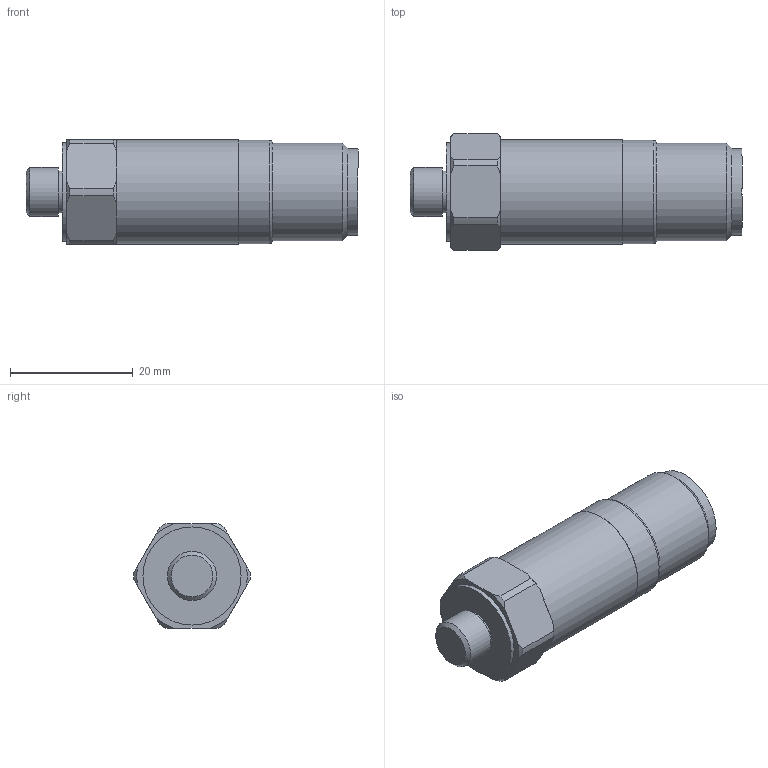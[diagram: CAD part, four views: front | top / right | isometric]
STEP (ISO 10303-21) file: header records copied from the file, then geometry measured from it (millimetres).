
FILE_DESCRIPTION(/* description */ (''),/* implementation_level */ '2;1');
FILE_NAME(/* name */ 'Z:\Engineering\Drawings\3D Library\Assemblies\Website\Premium Top\Compact\HS-170 Top 2 Pin MS\HS-1700105008.stp',/* time_stamp */ '2023-03-16T16:36:37+00:00',/* author */ ('Ricardo.Peneda'),/* organization */ (''),/* preprocessor_version */ 'ST-DEVELOPER v18.1',/* originating_system */ 'Autodesk Inventor 2021',/* authorisation */ '');
FILE_SCHEMA (('AUTOMOTIVE_DESIGN { 1 0 10303 214 3 1 1 }'));
Length unit declared in the file: inch
Products named in the file (1): HS-1700105008_Shrinkwrap_1
Bounding box: 54.15 x 19 x 17 mm (x, y, z)
Volume: 5862.1 mm3; surface area: 5555 mm2
Topology: 3 solids, 3 shells, 68 faces, 174 edges, 122 vertices
Faces by surface type: plane 28, cylinder 22, cone 17, torus 1
Full cylindrical faces by diameter (mm): 5 x1, 5.359 x1, 6.35 x1, 6.8 x1, 7 x2, 8 x1, 10.4 x1, 11.5 x1, 14.2 x1, 15.05 x1, 15.5 x1, 15.9 x1, 16 x1, 16.9 x1, 17 x1
Entity records: 2220 total; most frequent: CARTESIAN_POINT 412, DIRECTION 385, ORIENTED_EDGE 346, EDGE_CURVE 173, AXIS2_PLACEMENT_3D 167, VERTEX_POINT 122, CIRCLE 98, EDGE_LOOP 79
